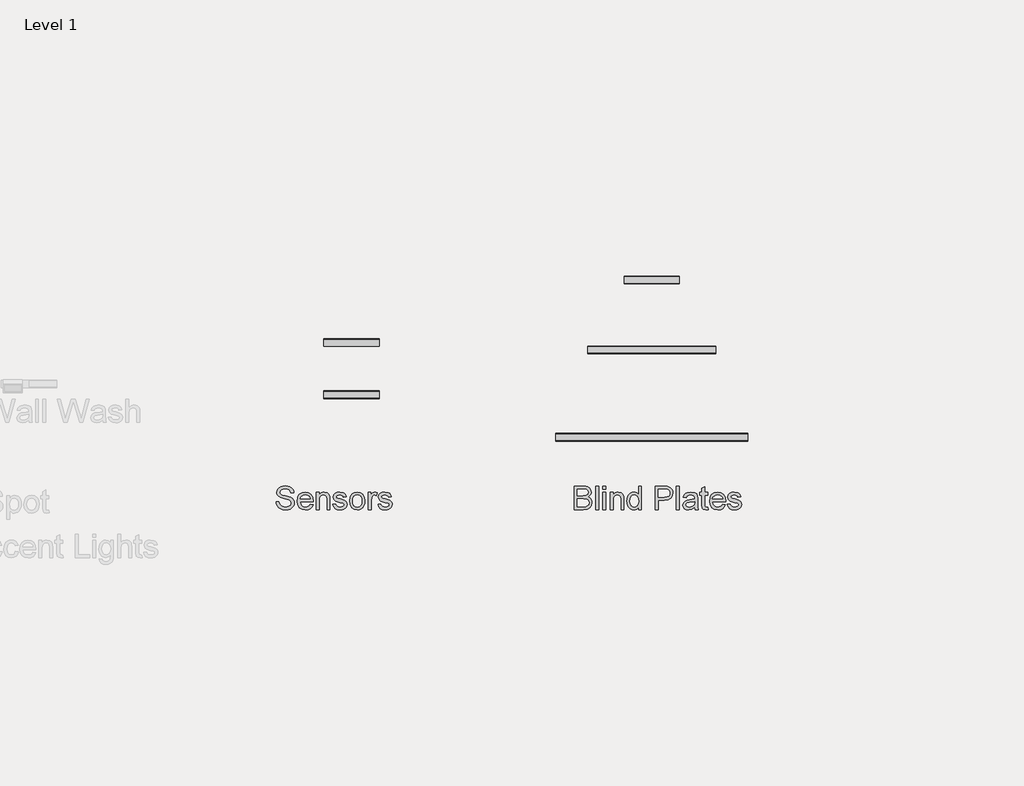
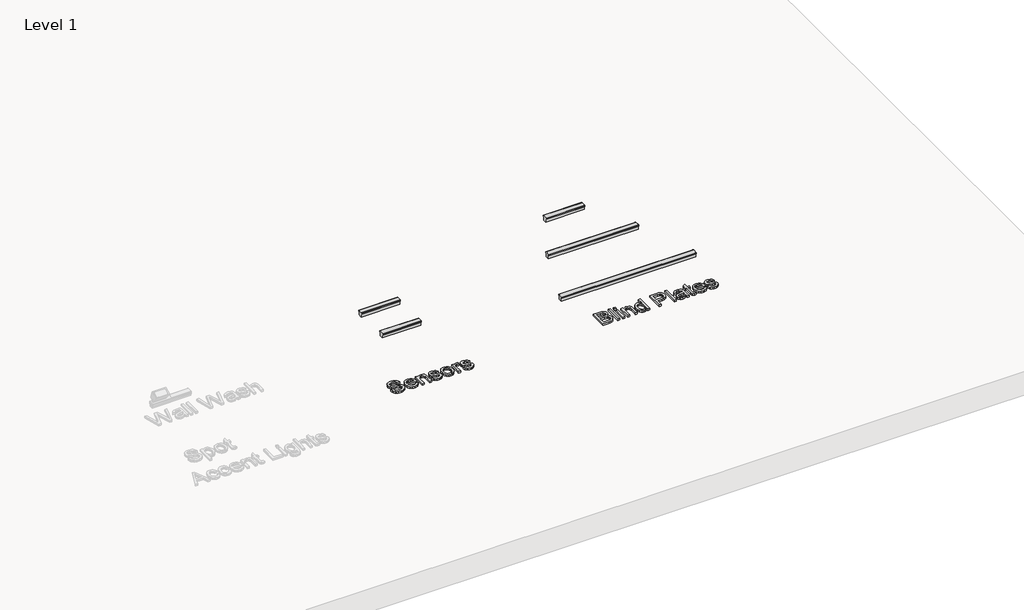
# One storey, part 9 of 9: 7 proxies.
"""IFC4 building model written with IfcOpenShell, lengths in millimetres."""

from ifc_helpers import new_model, si_unit, origin, origin_with_axes, place, context, project, spatial, polyline, outline, extrude, transform, mapped, element, save
from components import sc_blind_plate_2_bbbffddd, sc_blind_plate_4_fb8b6955, sc_blind_plate_6_c634a5db

model = new_model("IFC4")

# Units and contexts
model_context = context("Model", 3, world=origin())
ifc_project = project(units=[si_unit("LENGTHUNIT", "METRE", prefix="MILLI")], contexts=[model_context])

# Site, building, storey
site = spatial("IfcSite", under=ifc_project)
building = spatial("IfcBuilding", under=site)
storey = spatial("IfcBuildingStorey", under=building, Name="Level 1", Elevation=0.0)

# Proxies
placement = place(None, origin())
element("IfcBuildingElementProxy", 1, Name="8\"", ObjectType="8\"", at=placement, inside=storey, context=model_context, shape_type="SweptSolid", body=[
    extrude(outline(polyline([(3172.4617555, 6428.9138282), (3172.4617555, 6631.9585576), (3249.9419587, 6631.9585576), (3271.2514931, 6630.4652172), (3287.8889167, 6625.9851958), (3300.6411767, 6618.4069578), (3310.2952199, 6607.6189672), (3316.373921, 6594.9286717), (3318.4001548, 6581.6435185), (3316.6961356, 6569.4179554), (3311.584078, 6557.9235714), (3303.0268035, 6547.8667601), (3290.9871334, 6539.9539146), (3305.3690553, 6532.4438373), (3315.9959386, 6521.0176142), (3322.5579616, 6506.43121), (3324.7453026, 6489.4405896), (3318.7719408, 6462.1514969), (3303.9748578, 6442.7194818), (3281.8907692, 6432.4086167), (3249.347101, 6428.9138282), (3172.4617555, 6428.9138282)]), holes=[polyline([(3197.8423467, 6549.4716363), (3244.1916685, 6549.4716363), (3271.2576895, 6551.6527809), (3287.5419165, 6561.0465739), (3293.0195636, 6577.5786582), (3287.9137025, 6594.1355282), (3273.2901197, 6603.9258929), (3240.6720943, 6606.5779664), (3197.8423467, 6606.5779664), (3197.8423467, 6549.4716363)]), polyline([(3197.8423467, 6454.2944194), (3249.8923872, 6454.2944194), (3268.7295447, 6455.2858487), (3284.6667714, 6460.8130673), (3295.2254939, 6472.0905761), (3299.3647114, 6489.1927323), (3294.5067076, 6508.9221762), (3288.1429705, 6516.054271), (3278.7677668, 6520.6953996), (3247.4138138, 6524.0910451), (3197.8423467, 6524.0910451), (3197.8423467, 6454.2944194)])]), origin_with_axes(), (0.0, 0.0, 1.0), 25.4),
    extrude(outline(polyline([(3356.4710415, 6428.9138282), (3356.4710415, 6631.9585576), (3381.8516327, 6631.9585576), (3381.8516327, 6428.9138282), (3356.4710415, 6428.9138282)])), origin_with_axes(), (0.0, 0.0, 1.0), 25.4),
    extrude(outline(polyline([(3419.9225195, 6428.9138282), (3419.9225195, 6578.0248014), (3445.3031106, 6578.0248014), (3445.3031106, 6428.9138282), (3419.9225195, 6428.9138282)])), origin_with_axes(), (0.0, 0.0, 1.0), 25.4),
    extrude(outline(polyline([(3419.9225195, 6606.5779664), (3419.9225195, 6631.9585576), (3445.3031106, 6631.9585576), (3445.3031106, 6606.5779664), (3419.9225195, 6606.5779664)])), origin_with_axes(), (0.0, 0.0, 1.0), 25.4),
    extrude(outline(polyline([(3483.3739974, 6428.9138282), (3483.3739974, 6578.0248014), (3508.7545886, 6578.0248014), (3508.7545886, 6557.2047852), (3517.5721133, 6567.7015433), (3528.1618179, 6575.1992277), (3540.5237026, 6579.6978384), (3554.6577671, 6581.1973753), (3578.6255715, 6576.3641572), (3594.9841556, 6563.6738616), (3602.5933758, 6545.0102043), (3603.9318055, 6520.472328), (3603.9318055, 6428.9138282), (3578.5512143, 6428.9138282), (3578.5512143, 6517.0518968), (3575.6264977, 6539.5077714), (3565.2908468, 6551.3801378), (3547.8664761, 6555.8167841), (3533.0012324, 6553.3258179), (3520.3295261, 6545.8529192), (3511.648323, 6531.4152294), (3508.7545886, 6508.0298898), (3508.7545886, 6428.9138282), (3483.3739974, 6428.9138282)])), origin_with_axes(), (0.0, 0.0, 1.0), 25.4),
    extrude(outline(polyline([(3730.8347613, 6428.9138282), (3730.8347613, 6452.8568469), (3723.2410322, 6440.9937751), (3714.0424268, 6432.5201525), (3703.2389452, 6427.4359789), (3690.8305873, 6425.7412543), (3674.4224317, 6428.195042), (3659.4022772, 6435.5564048), (3646.6871959, 6447.311039), (3637.1942599, 6462.9446404), (3631.2828624, 6481.825173), (3629.3123966, 6503.3206004), (3631.1279516, 6524.5495812), (3636.5746166, 6543.7213461), (3645.646195, 6559.7453229), (3658.3364906, 6571.5309392), (3673.6850561, 6578.7807662), (3690.7314444, 6581.1973753), (3703.1490969, 6579.4685703), (3714.1291769, 6574.2821556), (3730.8347613, 6556.3124988), (3730.8347613, 6631.9585576), (3756.2153525, 6631.9585576), (3756.2153525, 6428.9138282), (3730.8347613, 6428.9138282)]), holes=[polyline([(3654.6929878, 6503.4197433), (3657.55574, 6480.4619576), (3666.1439967, 6464.1343556), (3678.6236136, 6454.374973), (3693.1604463, 6451.1218455), (3707.6910826, 6454.2262586), (3719.8546813, 6463.539498), (3728.0897413, 6479.2350638), (3730.8347613, 6501.4864561), (3728.0401699, 6525.8136536), (3719.6563955, 6542.6803453), (3707.1829751, 6552.5326744), (3692.1194455, 6555.8167841), (3677.4338983, 6552.6627995), (3665.4004247, 6543.2008457), (3657.369847, 6526.9476009), (3654.6929878, 6503.4197433)])]), origin_with_axes(), (0.0, 0.0, 1.0), 25.4),
    extrude(outline(polyline([(3876.7731606, 6428.9138282), (3876.7731606, 6631.9585576), (3952.0226477, 6631.9585576), (3982.3603856, 6630.0252704), (4007.0221905, 6620.5323344), (4015.9884296, 6612.1175779), (4023.0089886, 6600.9020335), (4027.5447778, 6587.6726482), (4029.0567076, 6573.2163691), (4024.973258, 6549.2857433), (4012.7229092, 6529.3456206), (4002.912406, 6521.4947395), (3989.8146949, 6515.8869673), (3953.757649, 6511.4007495), (3902.1537517, 6511.4007495), (3902.1537517, 6428.9138282), (3876.7731606, 6428.9138282)]), holes=[polyline([(3902.1537517, 6536.7813407), (3955.244793, 6536.7813407), (3977.7502391, 6539.1111997), (3992.6216792, 6546.1007765), (4000.9125071, 6557.316321), (4003.6761164, 6572.3240826), (4002.0464544, 6583.7255201), (3997.1574685, 6593.3423847), (3989.6164091, 6600.5798189), (3980.0305266, 6604.8429651), (3954.6499354, 6606.5779664), (3902.1537517, 6606.5779664), (3902.1537517, 6536.7813407)])]), origin_with_axes(), (0.0, 0.0, 1.0), 25.4),
    extrude(outline(polyline([(4060.7824466, 6428.9138282), (4060.7824466, 6631.9585576), (4086.1630377, 6631.9585576), (4086.1630377, 6428.9138282), (4060.7824466, 6428.9138282)])), origin_with_axes(), (0.0, 0.0, 1.0), 25.4),
    extrude(outline(polyline([(4219.4111414, 6447.9492716), (4194.798908, 6430.7479725), (4167.6089582, 6425.7412543), (4146.3985667, 6428.752721), (4130.7525724, 6437.7871208), (4121.1047256, 6451.5060244), (4117.8887767, 6468.5710019), (4122.7467805, 6488.6474461), (4135.5114333, 6503.2214575), (4153.2828042, 6511.5494639), (4175.2429642, 6515.3664669), (4219.262427, 6524.0910451), (4219.4111414, 6529.7421924), (4217.6637472, 6541.0692726), (4212.4215645, 6548.480207), (4200.6979125, 6553.9826398), (4184.3641141, 6555.8167841), (4169.2448166, 6554.5960867), (4158.6860941, 6550.9339946), (4151.4858385, 6544.1612929), (4146.4419418, 6533.6087668), (4121.0613506, 6536.7813407), (4125.4670147, 6550.6613515), (4132.0414306, 6561.5670743), (4141.398045, 6569.9074736), (4154.1503049, 6576.0915142), (4187.635831, 6581.1973753), (4218.3949263, 6576.6863718), (4235.7697255, 6565.3592915), (4243.5524459, 6548.1332067), (4244.7917326, 6525.9251894), (4244.7917326, 6494.3481648), (4246.0805907, 6450.2543448), (4251.1368803, 6428.9138282), (4225.7562892, 6428.9138282), (4219.4111414, 6447.9492716)]), holes=[polyline([(4219.4111414, 6498.710454), (4178.4651095, 6490.9277336), (4156.6288783, 6486.8133018), (4146.7393706, 6480.1211538), (4143.2693679, 6470.3555748), (4145.1592801, 6462.8083189), (4150.8290166, 6456.6242784), (4160.1546489, 6452.4974537), (4173.0122481, 6451.1218455), (4186.6444016, 6452.6399717), (4198.6902681, 6457.1943502), (4215.2471381, 6471.8922902), (4219.262427, 6491.5225912), (4219.4111414, 6498.710454)])]), origin_with_axes(), (0.0, 0.0, 1.0), 25.4),
    extrude(outline(polyline([(4333.6238017, 6450.0808447), (4336.7963756, 6428.1702562), (4317.8105036, 6425.7412543), (4296.5443442, 6429.954829), (4285.9360503, 6441.0092662), (4282.8626193, 6469.8102886), (4282.8626193, 6552.6442102), (4263.8271759, 6552.6442102), (4263.8271759, 6578.0248014), (4282.8626193, 6578.0248014), (4282.8626193, 6614.2615438), (4308.2432105, 6629.1825555), (4308.2432105, 6578.0248014), (4333.6238017, 6578.0248014), (4333.6238017, 6552.6442102), (4308.2432105, 6552.6442102), (4308.2432105, 6470.5538606), (4309.5816401, 6457.4669933), (4313.9191435, 6452.8320611), (4322.5693645, 6451.1218455), (4333.6238017, 6450.0808447)])), origin_with_axes(), (0.0, 0.0, 1.0), 25.4),
    extrude(outline(polyline([(4463.4019026, 6473.3298628), (4488.2867791, 6470.1572889), (4479.32054, 6451.4068814), (4465.0129753, 6437.3905491), (4445.6862995, 6428.653578), (4421.6627273, 6425.7412543), (4391.8826684, 6430.7665618), (4368.9682577, 6445.8424843), (4354.3570678, 6469.9899852), (4349.4866711, 6502.2300281), (4354.4066393, 6535.5544469), (4360.5565994, 6549.0657699), (4369.1665436, 6560.476502), (4391.7711326, 6576.0171569), (4420.2251547, 6581.1973753), (4447.7930869, 6576.0295498), (4469.8214076, 6560.5260735), (4484.2652938, 6535.6535898), (4489.0799226, 6502.3787425), (4488.9312082, 6495.5378801), (4374.8672623, 6495.5378801), (4379.2605336, 6476.5396153), (4389.4660594, 6462.5728544), (4404.1949816, 6453.9845977), (4422.158442, 6451.1218455), (4447.0433185, 6456.4259925), (4456.2883971, 6463.3040336), (4463.4019026, 6473.3298628)]), holes=[polyline([(4374.8672623, 6520.9184712), (4463.6993314, 6520.9184712), (4460.2665073, 6534.3275531), (4453.5371807, 6543.919632), (4438.7400977, 6552.8424961), (4420.1260118, 6555.8167841), (4403.0176592, 6553.4435501), (4388.8712018, 6546.3238481), (4379.037462, 6535.2260359), (4374.8672623, 6520.9184712)])]), origin_with_axes(), (0.0, 0.0, 1.0), 25.4),
    extrude(outline(polyline([(4504.9427921, 6473.3298628), (4530.3233832, 6476.5024367), (4534.3262792, 6465.6462854), (4542.071821, 6457.6652792), (4553.6095799, 6452.7577039), (4568.9891276, 6451.1218455), (4584.1827823, 6452.6213824), (4594.8654335, 6457.119993), (4601.1857955, 6463.638641), (4603.2925829, 6471.1982897), (4601.1734026, 6477.6673662), (4594.815862, 6482.5997271), (4568.6916988, 6489.8371613), (4530.4720976, 6502.2548139), (4520.7994651, 6508.4946223), (4513.791299, 6516.754468), (4508.115366, 6537.2274839), (4512.6759409, 6556.1389986), (4525.1183792, 6570.5890813), (4541.2538917, 6578.0991586), (4563.090123, 6581.1973753), (4593.973147, 6576.2154428), (4605.5232989, 6570.3536168), (4613.603448, 6562.7320038), (4622.3280262, 6539.9539146), (4596.9474351, 6536.7813407), (4593.743879, 6544.7685434), (4587.4049276, 6550.7852802), (4565.0729817, 6555.8167841), (4550.4989704, 6554.614676), (4540.7829628, 6551.0083518), (4535.3177086, 6545.8033477), (4533.4959571, 6539.8052002), (4536.5198166, 6532.4190516), (4545.9879669, 6526.8174758), (4567.8489839, 6521.4141859), (4605.1019414, 6509.4674623), (4622.4023834, 6495.9344518), (4627.1054764, 6485.9829798), (4628.673174, 6473.8751489), (4626.8328333, 6461.3583535), (4621.3118112, 6449.58513), (4612.3207863, 6439.4787472), (4600.0704375, 6431.9624735), (4585.2733546, 6427.2965591), (4568.6421273, 6425.7412543), (4543.0508574, 6428.7403281), (4524.3748072, 6437.7375494), (4511.9075832, 6452.6337753), (4504.9427921, 6473.3298628)])), origin_with_axes(), (0.0, 0.0, 1.0), 25.4),
])
element("IfcBuildingElementProxy", 2, Name="8\"", ObjectType="8\"", at=placement, inside=storey, context=model_context, shape_type="SweptSolid", body=[
    extrude(outline(polyline([(572.1440338, 6498.710454), (597.524625, 6498.710454), (605.7039171, 6473.305077), (613.9203878, 6464.3202486), (625.6812183, 6457.2439217), (640.0569438, 6452.6523646), (656.1180992, 6451.1218455), (682.6388341, 6455.7567777), (699.765776, 6468.4966447), (705.3921375, 6485.5244437), (701.1785628, 6501.3625274), (694.7590578, 6507.6271216), (683.9276922, 6512.8878936), (646.9721635, 6522.5791154), (607.1910611, 6535.0959108), (594.5565334, 6543.634596), (585.6026872, 6553.9826398), (580.267558, 6565.9169705), (578.4891816, 6579.2145166), (580.6889155, 6594.0797603), (587.288117, 6607.9411818), (598.1132862, 6619.6896195), (612.9909228, 6628.2159118), (630.8490438, 6633.4023266), (650.6156663, 6635.1311315), (672.0305401, 6633.321773), (690.7685547, 6627.8936973), (706.1604952, 6618.9584404), (717.5371469, 6606.6275379), (724.7374025, 6591.6693477), (727.6001548, 6574.8522275), (702.2195636, 6574.8522275), (697.5598457, 6589.9963107), (687.8438381, 6600.9268192), (672.6625763, 6607.54461), (651.6070956, 6609.7505403), (630.0559003, 6607.5693958), (615.2712102, 6601.0259621), (606.7201322, 6591.3967046), (603.8697728, 6579.9580886), (605.8898101, 6570.2049024), (611.9499219, 6562.3602178), (626.2760759, 6555.3458552), (653.3916685, 6548.1827782), (698.3034177, 6535.4429111), (712.7720897, 6526.2350111), (722.8660797, 6514.8707522), (728.7960664, 6501.4740632), (730.7727287, 6486.1688728), (728.4986376, 6470.5228785), (721.6763644, 6455.8063492), (710.5847487, 6443.1408393), (695.5026298, 6433.6479033), (677.3656693, 6427.7179166), (657.1095285, 6425.7412543), (632.2432413, 6427.8728274), (611.7764218, 6434.2675467), (595.4736056, 6444.9501978), (583.0993281, 6459.9455667), (575.1555005, 6478.2126523), (572.1440338, 6498.710454)])), origin_with_axes(), (0.0, 0.0, 1.0), 25.4),
    extrude(outline(polyline([(870.0685513, 6473.3298628), (894.9534278, 6470.1572889), (885.9871887, 6451.4068814), (871.679624, 6437.3905491), (852.3529482, 6428.653578), (828.329376, 6425.7412543), (798.5493171, 6430.7665618), (775.6349064, 6445.8424843), (761.0237165, 6469.9899852), (756.1533198, 6502.2300281), (761.0732879, 6535.5544469), (767.2232481, 6549.0657699), (775.8331923, 6560.476502), (798.4377813, 6576.0171569), (826.8918034, 6581.1973753), (854.4597356, 6576.0295498), (876.4880563, 6560.5260735), (890.9319425, 6535.6535898), (895.7465713, 6502.3787425), (895.5978569, 6495.5378801), (781.533911, 6495.5378801), (785.9271823, 6476.5396153), (796.1327081, 6462.5728544), (810.8616302, 6453.9845977), (828.8250907, 6451.1218455), (853.7099672, 6456.4259925), (862.9550458, 6463.3040336), (870.0685513, 6473.3298628)]), holes=[polyline([(781.533911, 6520.9184712), (870.3659801, 6520.9184712), (866.933156, 6534.3275531), (860.2038293, 6543.919632), (845.4067464, 6552.8424961), (826.7926605, 6555.8167841), (809.6843079, 6553.4435501), (795.5378505, 6546.3238481), (785.7041107, 6535.2260359), (781.533911, 6520.9184712)])]), origin_with_axes(), (0.0, 0.0, 1.0), 25.4),
    extrude(outline(polyline([(921.1271625, 6428.9138282), (921.1271625, 6578.0248014), (946.5077536, 6578.0248014), (946.5077536, 6557.2047852), (955.3252783, 6567.7015433), (965.914983, 6575.1992277), (978.2768676, 6579.6978384), (992.4109322, 6581.1973753), (1016.3787366, 6576.3641572), (1032.7373207, 6563.6738616), (1040.3465409, 6545.0102043), (1041.6849705, 6520.472328), (1041.6849705, 6428.9138282), (1016.3043794, 6428.9138282), (1016.3043794, 6517.0518968), (1013.3796628, 6539.5077714), (1003.0440119, 6551.3801378), (985.6196412, 6555.8167841), (970.7543975, 6553.3258179), (958.0826912, 6545.8529192), (949.401488, 6531.4152294), (946.5077536, 6508.0298898), (946.5077536, 6428.9138282), (921.1271625, 6428.9138282)])), origin_with_axes(), (0.0, 0.0, 1.0), 25.4),
    extrude(outline(polyline([(1067.0655617, 6473.3298628), (1092.4461529, 6476.5024367), (1096.4490488, 6465.6462854), (1104.1945906, 6457.6652792), (1115.7323496, 6452.7577039), (1131.1118972, 6451.1218455), (1146.3055519, 6452.6213824), (1156.9882031, 6457.119993), (1163.3085651, 6463.638641), (1165.4153525, 6471.1982897), (1163.2961723, 6477.6673662), (1156.9386316, 6482.5997271), (1130.8144684, 6489.8371613), (1092.5948673, 6502.2548139), (1082.9222347, 6508.4946223), (1075.9140686, 6516.754468), (1070.2381356, 6537.2274839), (1074.7987106, 6556.1389986), (1087.2411488, 6570.5890813), (1103.3766614, 6578.0991586), (1125.2128926, 6581.1973753), (1156.0959167, 6576.2154428), (1167.6460685, 6570.3536168), (1175.7262177, 6562.7320038), (1184.4507959, 6539.9539146), (1159.0702047, 6536.7813407), (1155.8666486, 6544.7685434), (1149.5276973, 6550.7852802), (1127.1957513, 6555.8167841), (1112.62174, 6554.614676), (1102.9057324, 6551.0083518), (1097.4404782, 6545.8033477), (1095.6187268, 6539.8052002), (1098.6425863, 6532.4190516), (1108.1107365, 6526.8174758), (1129.9717535, 6521.4141859), (1167.224711, 6509.4674623), (1184.5251531, 6495.9344518), (1189.228246, 6485.9829798), (1190.7959437, 6473.8751489), (1188.9556029, 6461.3583535), (1183.4345808, 6449.58513), (1174.4435559, 6439.4787472), (1162.1932071, 6431.9624735), (1147.3961242, 6427.2965591), (1130.764897, 6425.7412543), (1105.1736271, 6428.7403281), (1086.4975768, 6437.7375494), (1074.0303528, 6452.6337753), (1067.0655617, 6473.3298628)])), origin_with_axes(), (0.0, 0.0, 1.0), 25.4),
    extrude(outline(polyline([(1213.0039609, 6503.4693148), (1218.4940009, 6539.4210213), (1225.3565509, 6553.3908804), (1234.9641209, 6564.6900767), (1255.3132081, 6577.0705506), (1279.6775842, 6581.1973753), (1306.3408371, 6576.1720678), (1327.6379787, 6561.0961453), (1341.5985431, 6537.1593232), (1346.2520646, 6505.5513164), (1344.1948487, 6479.910475), (1338.023201, 6460.3917099), (1327.9168182, 6445.7743235), (1314.0553967, 6434.8376186), (1297.5914732, 6428.0153454), (1279.6775842, 6425.7412543), (1252.6921168, 6430.7479725), (1231.419761, 6445.7681271), (1217.6079109, 6470.2068604), (1213.0039609, 6503.4693148)]), holes=[polyline([(1238.3845521, 6503.5188863), (1241.3216615, 6480.5487077), (1250.1329898, 6464.1839271), (1263.3933573, 6454.3873659), (1279.6775842, 6451.1218455), (1295.887454, 6454.4059552), (1309.1230357, 6464.2582843), (1317.934364, 6480.8399401), (1320.8714734, 6504.3120297), (1317.9157747, 6526.6129935), (1309.0486785, 6542.7547025), (1295.7945075, 6552.5512637), (1279.6775842, 6555.8167841), (1263.3933573, 6552.5636566), (1250.1329898, 6542.804274), (1241.3216615, 6526.476672), (1238.3845521, 6503.5188863)])]), origin_with_axes(), (0.0, 0.0, 1.0), 25.4),
    extrude(outline(polyline([(1374.8052297, 6428.9138282), (1374.8052297, 6578.0248014), (1397.0132469, 6578.0248014), (1397.0132469, 6555.9654985), (1412.7769735, 6576.2898), (1428.639843, 6581.1973753), (1441.2805671, 6579.2393023), (1454.1195771, 6573.3650835), (1445.6428562, 6550.61178), (1427.797128, 6555.8167841), (1413.4461883, 6550.8100659), (1404.3002526, 6536.9300551), (1400.1858208, 6507.2863178), (1400.1858208, 6428.9138282), (1374.8052297, 6428.9138282)])), origin_with_axes(), (0.0, 0.0, 1.0), 25.4),
    extrude(outline(polyline([(1460.4647249, 6473.3298628), (1485.845316, 6476.5024367), (1489.848212, 6465.6462854), (1497.5937538, 6457.6652792), (1509.1315127, 6452.7577039), (1524.5110604, 6451.1218455), (1539.7047151, 6452.6213824), (1550.3873662, 6457.119993), (1556.7077283, 6463.638641), (1558.8145157, 6471.1982897), (1556.6953354, 6477.6673662), (1550.3377948, 6482.5997271), (1524.2136316, 6489.8371613), (1485.9940304, 6502.2548139), (1476.3213979, 6508.4946223), (1469.3132318, 6516.754468), (1463.6372988, 6537.2274839), (1468.1978737, 6556.1389986), (1480.640312, 6570.5890813), (1496.7758245, 6578.0991586), (1518.6120558, 6581.1973753), (1549.4950798, 6576.2154428), (1561.0452317, 6570.3536168), (1569.1253808, 6562.7320038), (1577.849959, 6539.9539146), (1552.4693679, 6536.7813407), (1549.2658118, 6544.7685434), (1542.9268604, 6550.7852802), (1520.5949145, 6555.8167841), (1506.0209032, 6554.614676), (1496.3048956, 6551.0083518), (1490.8396414, 6545.8033477), (1489.0178899, 6539.8052002), (1492.0417494, 6532.4190516), (1501.5098997, 6526.8174758), (1523.3709167, 6521.4141859), (1560.6238742, 6509.4674623), (1577.9243162, 6495.9344518), (1582.6274092, 6485.9829798), (1584.1951068, 6473.8751489), (1582.3547661, 6461.3583535), (1576.833744, 6449.58513), (1567.8427191, 6439.4787472), (1555.5923703, 6431.9624735), (1540.7952874, 6427.2965591), (1524.1640601, 6425.7412543), (1498.5727902, 6428.7403281), (1479.89674, 6437.7375494), (1467.429516, 6452.6337753), (1460.4647249, 6473.3298628)])), origin_with_axes(), (0.0, 0.0, 1.0), 25.4),
])
sc_blind_plate_2_shape = sc_blind_plate_2_bbbffddd(model_context)
element("IfcBuildingElementProxy", 3, Name="SC-Blind-Plate : 2'", ObjectType="SC-Blind-Plate : 2'", at=placement, inside=storey, context=model_context, shape_type="MappedRepresentation", body=[
    mapped(sc_blind_plate_2_shape, transform((3845.6885046, 8430.4605982, 0.0), x_axis=(1.0, 0.0, 0.0), y_axis=(0.0, 1.0, 0.0), z_axis=(0.0, 0.0, 1.0))),
])
sc_blind_plate_4_shape = sc_blind_plate_4_fb8b6955(model_context)
element("IfcBuildingElementProxy", 4, Name="SC-Blind-Plate : 4'", ObjectType="SC-Blind-Plate : 4'", at=placement, inside=storey, context=model_context, shape_type="MappedRepresentation", body=[
    mapped(sc_blind_plate_4_shape, transform((3845.6885046, 7820.8605982, 0.0), x_axis=(1.0, 0.0, 0.0), y_axis=(0.0, 1.0, 0.0), z_axis=(0.0, 0.0, 1.0))),
])
sc_blind_plate_6_shape = sc_blind_plate_6_c634a5db(model_context)
element("IfcBuildingElementProxy", 5, Name="SC-Blind-Plate : 6'", ObjectType="SC-Blind-Plate : 6'", at=placement, inside=storey, context=model_context, shape_type="MappedRepresentation", body=[
    mapped(sc_blind_plate_6_shape, transform((3845.6885046, 7058.8605982, 0.0), x_axis=(1.0, 0.0, 0.0), y_axis=(0.0, 1.0, 0.0), z_axis=(0.0, 0.0, 1.0))),
])
element("IfcBuildingElementProxy", 6, Name="SC-Sensor : Daylight", ObjectType="SC-Sensor : Daylight", at=placement, inside=storey, context=model_context, shape_type="MappedRepresentation", body=[
    mapped(sc_blind_plate_2_shape, transform((1230.6156752, 7883.2906489, 0.0), x_axis=(1.0, 0.0, 0.0), y_axis=(0.0, 1.0, 0.0), z_axis=(0.0, 0.0, 1.0))),
])
element("IfcBuildingElementProxy", 7, Name="SC-Sensor : Occupancy", ObjectType="SC-Sensor : Occupancy", at=placement, inside=storey, context=model_context, shape_type="MappedRepresentation", body=[
    mapped(sc_blind_plate_2_shape, transform((1230.6156752, 7429.1143334, 0.0), x_axis=(1.0, 0.0, 0.0), y_axis=(0.0, 1.0, 0.0), z_axis=(0.0, 0.0, 1.0))),
])

save(model, "model.ifc")
